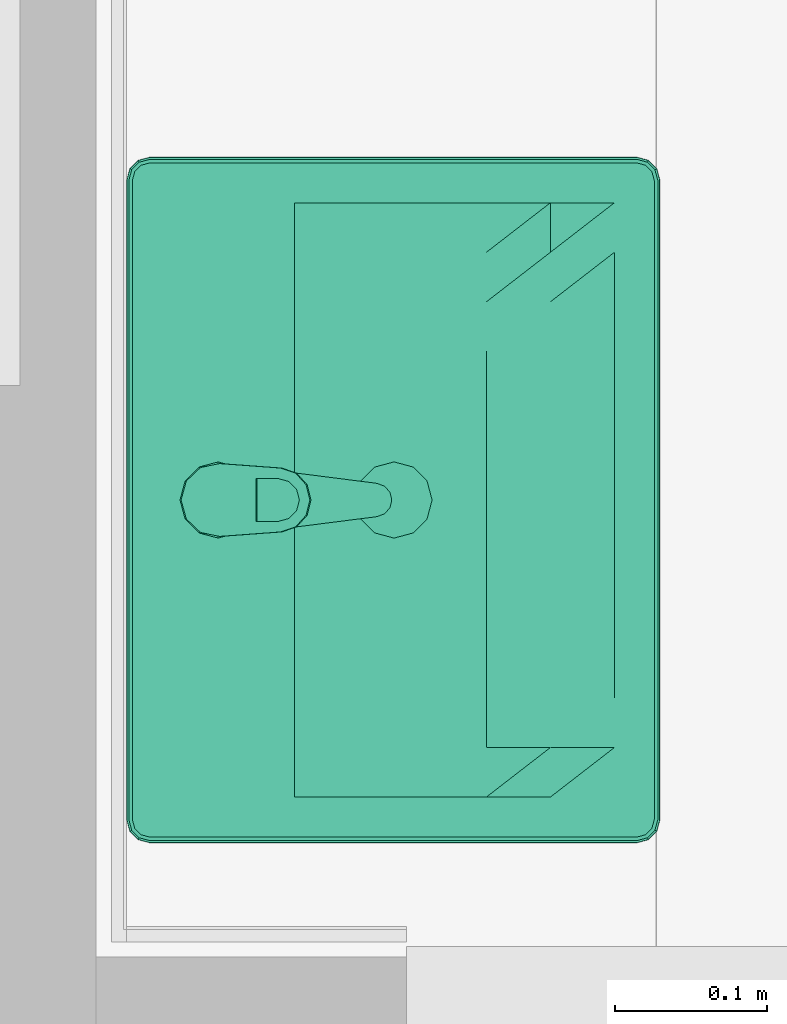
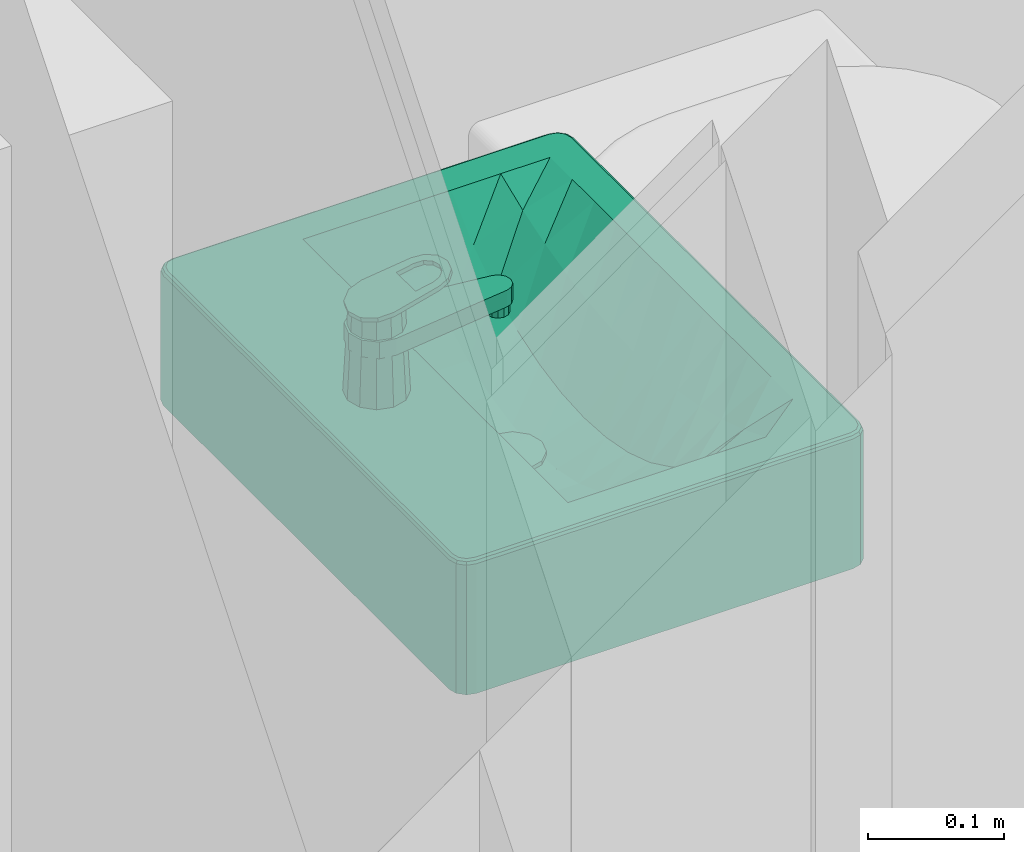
# One storey, part 229 of 347: 1 flow terminal.
"""IFC2X3 building model written with IfcOpenShell, lengths in millimetres."""

from ifc_helpers import new_model, entity, si_unit, converted_unit, derived_unit, money_unit, direction, frame, origin_with_axes, place, context, subcontext, project, spatial, open_shell, faceted_brep, surface_model, source, transform, mapped, type_object, type_shapes, element, save


model = new_model("IFC2X3")

# Units and contexts
model_context = context("Model", 3, precision=0.01, world=origin_with_axes(), true_north=direction((0.0, 1.0)))
plan_context = context("Plan", 3, precision=0.01, world=origin_with_axes(), true_north=direction((0.0, 1.0)))
body_context = subcontext(model_context, "Body", "Model", "MODEL_VIEW")
ifc_project = project(units=[si_unit("LENGTHUNIT", "METRE", prefix="MILLI"), si_unit("AREAUNIT", "SQUARE_METRE"), si_unit("VOLUMEUNIT", "CUBIC_METRE"), converted_unit("PLANEANGLEUNIT", "DEGREE", entity("IfcPlaneAngleMeasure", 0.0174532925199), si_unit("PLANEANGLEUNIT", "RADIAN"), dimensions=[0, 0, 0, 0, 0, 0, 0]), money_unit("EUR"), converted_unit("TIMEUNIT", "Year", entity("IfcTimeMeasure", 31556926.0), si_unit("TIMEUNIT", "SECOND"), dimensions=[0, 0, 1, 0, 0, 0, 0]), si_unit("MASSUNIT", "GRAM", prefix="KILO"), si_unit("THERMODYNAMICTEMPERATUREUNIT", "DEGREE_CELSIUS"), si_unit("LUMINOUSINTENSITYUNIT", "LUMEN"), si_unit("ENERGYUNIT", "JOULE", prefix="MEGA"), derived_unit("THERMALCONDUCTANCEUNIT", [(si_unit("POWERUNIT", "WATT"), 1), (si_unit("LENGTHUNIT", "METRE"), -1), (si_unit("THERMODYNAMICTEMPERATUREUNIT", "KELVIN"), -1)]), derived_unit("SPECIFICHEATCAPACITYUNIT", [(si_unit("ENERGYUNIT", "JOULE"), 1), (si_unit("MASSUNIT", "GRAM", prefix="KILO"), -1), (si_unit("THERMODYNAMICTEMPERATUREUNIT", "KELVIN"), -1)]), derived_unit("MASSDENSITYUNIT", [(si_unit("MASSUNIT", "GRAM", prefix="KILO"), 1), (si_unit("VOLUMEUNIT", "CUBIC_METRE"), -1)])], contexts=[model_context, plan_context])

# Site, building, storey
site_placement = place(None, origin_with_axes())
site = spatial("IfcSite", under=ifc_project, at=site_placement, Name="Site", CompositionType="ELEMENT")
building_placement = place(site_placement, origin_with_axes())
building = spatial("IfcBuilding", under=site, at=building_placement, Name="Naam gebouw", CompositionType="ELEMENT")
storey_placement = place(building_placement, origin_with_axes())
storey = spatial("IfcBuildingStorey", under=building, at=storey_placement, Name="begane grond", CompositionType="ELEMENT", Elevation=0.0)

# Flow terminal
sanitary_terminal_type = type_object("IfcSanitaryTerminalType", Name="Wasbak 25", PredefinedType="SANITARYFOUNTAIN")
shared_shape = source(origin_with_axes(), body_context, "Body", "SurfaceModel", [
    faceted_brep([(-210.0, -350.0, 780.0), (-217.5, -347.990381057, 780.0), (-222.990381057, -342.5, 780.0), (-225.0, -335.0, 780.0), (-225.0, -15.0, 780.0), (-222.990381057, -7.5, 780.0), (-217.5, -2.00961894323, 780.0), (-210.0, 0.0, 780.0), (210.0, 0.0, 780.0), (217.5, -2.00961894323, 780.0), (222.990381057, -7.5, 780.0), (225.0, -15.0, 780.0), (225.0, -335.0, 780.0), (222.990381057, -342.5, 780.0), (217.5, -347.990381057, 780.0), (210.0, -350.0, 780.0), (195.0, -320.0, 780.0), (195.0, -110.0, 780.0), (-195.0, -110.0, 780.0), (-195.0, -320.0, 780.0), (-210.000000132, -350.00000039, 895.0), (-217.50000043, -347.990381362, 895.0), (-222.990380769, -342.500000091, 895.0), (-224.999999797, -334.999999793, 895.0), (-224.999999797, -15.0000004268, 895.0), (-222.990380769, -7.50000012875, 895.0), (-217.50000043, -2.0096188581, 895.0), (-210.000000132, 1.69277203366e-07, 895.0), (209.999999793, 1.69277203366e-07, 895.0), (217.500000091, -2.0096188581, 895.0), (222.990381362, -7.50000012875, 895.0), (225.00000039, -15.0000004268, 895.0), (225.00000039, -334.999999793, 895.0), (222.990381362, -342.500000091, 895.0), (217.500000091, -347.990381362, 895.0), (209.999999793, -350.00000039, 895.0), (195.0, -110.0, 899.999999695), (195.0, -320.0, 899.999999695), (-195.0, -110.0, 899.999999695), (-195.0, -320.0, 899.999999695), (-209.977570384, -349.829629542, 896.294095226), (-217.411809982, -347.837631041, 896.294095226), (-222.837630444, -342.411809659, 896.294095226), (-224.829628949, -334.977570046, 896.294095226), (-224.829628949, -15.0224301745, 896.294095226), (-222.837630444, -7.58819056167, 896.294095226), (-217.411809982, -2.16236917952, 896.294095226), (-209.977570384, -0.170370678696, 896.294095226), (209.977570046, -0.170370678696, 896.294095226), (217.411809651, -2.16236918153, 896.294095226), (222.837631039, -7.58819056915, 896.294095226), (224.829629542, -15.0224301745, 896.294095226), (224.829629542, -334.977570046, 896.294095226), (222.837631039, -342.411809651, 896.294095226), (217.411809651, -347.837631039, 896.294095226), (209.977570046, -349.829629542, 896.294095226), (209.34173768, -4.99999697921, 899.999999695), (-209.341738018, -4.99999697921, 899.999999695), (-214.911811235, -6.49249360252, 899.999999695), (-218.507505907, -10.0881888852, 899.999999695), (-220.000002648, -15.6582625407, 899.999999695), (-220.000002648, -334.34173768, 899.999999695), (-218.507505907, -339.911811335, 899.999999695), (-214.911811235, -343.507506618, 899.999999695), (-209.341738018, -345.000003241, 899.999999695), (209.34173768, -345.000003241, 899.999999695), (214.911811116, -343.507506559, 899.999999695), (218.507506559, -339.911811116, 899.999999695), (220.000003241, -334.34173768, 899.999999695), (220.000003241, -15.6582625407, 899.999999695), (218.507506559, -10.0881891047, 899.999999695), (214.911811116, -6.49249366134, 899.999999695), (-209.807199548, -348.535534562, 898.535533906), (-216.741937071, -346.677377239, 898.535533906), (-221.677376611, -341.741936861, 898.535533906), (-223.535533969, -334.807199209, 898.535533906), (-223.535533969, -15.192801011, 898.535533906), (-221.677376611, -8.25806335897, 898.535533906), (-216.741937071, -3.32262298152, 898.535533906), (-209.807199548, -1.46446565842, 898.535533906), (209.807199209, -1.46446565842, 898.535533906), (216.741936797, -3.32262299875, 898.535533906), (221.677377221, -8.25806342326, 898.535533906), (223.535534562, -15.192801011, 898.535533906), (223.535534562, -334.807199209, 898.535533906), (221.677377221, -341.741936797, 898.535533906), (216.741936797, -346.677377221, 898.535533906), (209.807199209, -348.535534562, 898.535533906), (209.512108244, -3.70590406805, 899.829629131), (-209.512108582, -3.70590406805, 899.829629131), (-215.581683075, -5.33224165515, 899.829629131), (-219.667757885, -9.41831715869, 899.829629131), (-221.294095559, -15.4878919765, 899.829629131), (-221.294095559, -334.512108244, 899.829629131), (-219.667757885, -340.581683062, 899.829629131), (-215.581683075, -344.667758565, 899.829629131), (-209.512108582, -346.294096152, 899.829629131), (209.512108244, -346.294096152, 899.829629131), (215.581682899, -344.667758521, 899.829629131), (219.667758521, -340.581682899, 899.829629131), (221.294096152, -334.512108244, 899.829629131), (221.294096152, -15.4878919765, 899.829629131), (219.667758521, -9.41831732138, 899.829629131), (215.581682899, -5.33224169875, 899.829629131)], [[[0, 1, 2, 3, 4, 5, 6, 7, 8, 9, 10, 11, 12, 13, 14, 15], [16, 17, 18, 19]], [[1, 0, 20, 21]], [[2, 1, 21, 22]], [[3, 2, 22, 23]], [[4, 3, 23, 24]], [[5, 4, 24, 25]], [[6, 5, 25, 26]], [[7, 6, 26, 27]], [[8, 7, 27, 28]], [[9, 8, 28, 29]], [[10, 9, 29, 30]], [[11, 10, 30, 31]], [[12, 11, 31, 32]], [[13, 12, 32, 33]], [[14, 13, 33, 34]], [[15, 14, 34, 35]], [[0, 15, 35, 20]], [[36, 17, 16, 37]], [[38, 18, 17, 36]], [[39, 19, 18, 38]], [[37, 16, 19, 39]], [[21, 20, 40, 41]], [[22, 21, 41, 42]], [[23, 22, 42, 43]], [[24, 23, 43, 44]], [[25, 24, 44, 45]], [[26, 25, 45, 46]], [[27, 26, 46, 47]], [[28, 27, 47, 48]], [[29, 28, 48, 49]], [[30, 29, 49, 50]], [[31, 30, 50, 51]], [[32, 31, 51, 52]], [[33, 32, 52, 53]], [[34, 33, 53, 54]], [[35, 34, 54, 55]], [[20, 35, 55, 40]], [[56, 57, 58, 59, 60, 61, 62, 63, 64, 65, 66, 67, 68, 69, 70, 71], [37, 39, 38, 36]], [[41, 40, 72, 73]], [[42, 41, 73, 74]], [[43, 42, 74, 75]], [[44, 43, 75, 76]], [[45, 44, 76, 77]], [[46, 45, 77, 78]], [[47, 46, 78, 79]], [[48, 47, 79, 80]], [[49, 48, 80, 81]], [[50, 49, 81, 82]], [[51, 50, 82, 83]], [[52, 51, 83, 84]], [[53, 52, 84, 85]], [[54, 53, 85, 86]], [[55, 54, 86, 87]], [[40, 55, 87, 72]], [[88, 89, 57, 56]], [[89, 90, 58, 57]], [[90, 91, 59, 58]], [[91, 92, 60, 59]], [[92, 93, 61, 60]], [[93, 94, 62, 61]], [[94, 95, 63, 62]], [[95, 96, 64, 63]], [[96, 97, 65, 64]], [[97, 98, 66, 65]], [[98, 99, 67, 66]], [[99, 100, 68, 67]], [[100, 101, 69, 68]], [[101, 102, 70, 69]], [[102, 103, 71, 70]], [[103, 88, 56, 71]], [[73, 72, 96, 95]], [[74, 73, 95, 94]], [[75, 74, 94, 93]], [[76, 75, 93, 92]], [[77, 76, 92, 91]], [[78, 77, 91, 90]], [[79, 78, 90, 89]], [[80, 79, 89, 88]], [[81, 80, 88, 103]], [[82, 81, 103, 102]], [[83, 82, 102, 101]], [[84, 83, 101, 100]], [[85, 84, 100, 99]], [[86, 85, 99, 98]], [[87, 86, 98, 97]], [[72, 87, 97, 96]]]),
    faceted_brep([(195.0, -320.0, 780.0), (-195.0, -320.0, 780.0), (-195.0, -110.0, 780.0), (195.0, -110.0, 780.0), (-12.5, -197.098635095, 780.0), (0.0, -200.448, 780.0), (12.5, -197.098635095, 780.0), (21.6506350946, -187.948, 780.0), (25.0, -175.448, 780.0), (21.6506350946, -162.948, 780.0), (12.5, -153.797364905, 780.0), (0.0, -150.448, 780.0), (-12.5, -153.797364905, 780.0), (-21.6506350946, -162.948, 780.0), (-25.0, -175.448, 780.0), (-21.6506350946, -187.948, 780.0), (97.5, -320.0, 900.0), (65.0, -320.0, 900.0), (32.5, -320.0, 900.0), (0.0, -320.0, 900.0), (-32.5, -320.0, 900.0), (-65.0, -320.0, 900.0), (-97.5, -320.0, 900.0), (-130.0, -320.0, 900.0), (-162.5, -320.0, 900.0), (-195.0, -320.0, 900.0), (195.0, -320.0, 900.0), (162.5, -320.0, 900.0), (130.0, -320.0, 900.0), (-195.0, -194.0, 900.0), (-195.0, -152.0, 900.0), (-195.0, -110.0, 900.0), (-195.0, -278.0, 900.0), (-195.0, -236.0, 900.0), (-97.5, -110.0, 820.685337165), (-65.0, -110.0, 808.964848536), (-32.5, -110.0, 802.209541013), (0.0, -110.0, 800.0), (32.5, -110.0, 802.209541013), (65.0, -110.0, 808.964848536), (97.5, -110.0, 820.685337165), (130.0, -110.0, 838.233901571), (162.5, -110.0, 863.337654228), (195.0, -110.0, 900.0), (-162.5, -110.0, 863.337654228), (-130.0, -110.0, 838.233901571), (195.0, -236.0, 900.0), (195.0, -278.0, 900.0), (195.0, -152.0, 900.0), (195.0, -194.0, 900.0), (0.0, -200.448, 802.15392218), (-12.5, -197.098635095, 801.884907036), (4.13265281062, -199.340659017, 802.03923497), (12.5, -197.098635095, 801.869968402), (15.5986350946, -194.0, 801.060486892), (21.6506350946, -187.948, 801.471937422), (25.0, -175.448, 801.699646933), (21.6506350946, -162.948, 801.471937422), (12.5, -153.797364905, 800.849823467), (0.0, -150.448, 800.0), (5.79214285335, -152.0, 800.393783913), (-12.5, -153.797364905, 800.849823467), (-5.79214285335, -152.0, 800.393783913), (-21.6506350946, -162.948, 801.471937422), (-25.0, -175.448, 801.699646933), (-21.6506350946, -187.948, 801.471937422), (-15.5986350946, -194.0, 801.060486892), (65.0, -278.0, 863.048407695), (32.5, -278.0, 859.730275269), (0.0, -278.0, 858.629325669), (-32.5, -278.0, 859.730275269), (-65.0, -278.0, 863.048407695), (-97.5, -278.0, 868.630654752), (-130.0, -278.0, 876.559022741), (-162.5, -278.0, 886.956973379), (162.5, -278.0, 886.956973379), (130.0, -278.0, 876.559022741), (97.5, -278.0, 868.630654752), (-162.5, -194.0, 863.337654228), (-162.5, -152.0, 863.337654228), (-162.5, -236.0, 869.931060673), (-97.5, -152.0, 820.685337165), (-65.0, -152.0, 808.964848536), (-32.5, -152.0, 802.209541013), (32.5, -152.0, 802.209541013), (65.0, -152.0, 808.964848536), (97.5, -152.0, 820.685337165), (130.0, -152.0, 838.233901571), (162.5, -152.0, 863.337654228), (-130.0, -152.0, 838.233901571), (162.5, -236.0, 869.931060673), (162.5, -194.0, 863.337654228), (-32.5, -194.0, 802.209541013), (0.0, -236.0, 814.029890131), (32.5, -236.0, 816.036947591), (32.5, -194.0, 802.209541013), (-130.0, -194.0, 838.233901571), (-97.5, -194.0, 820.685337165), (-65.0, -194.0, 808.964848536), (65.0, -194.0, 808.964848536), (97.5, -194.0, 820.685337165), (130.0, -194.0, 838.233901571), (-32.5, -236.0, 816.036947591), (65.0, -236.0, 822.152509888), (-65.0, -236.0, 822.152509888), (-97.5, -236.0, 832.683441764), (-130.0, -236.0, 848.235620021), (130.0, -236.0, 848.235620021), (97.5, -236.0, 832.683441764)], [[[0, 1, 2, 3], [4, 5, 6, 7, 8, 9, 10, 11, 12, 13, 14, 15]], [[16, 17, 18, 19, 20, 21, 22, 23, 24, 25, 1, 0, 26, 27, 28]], [[29, 30, 31, 2, 1, 25, 32, 33]], [[34, 35, 36, 37, 38, 39, 40, 41, 42, 43, 3, 2, 31, 44, 45]], [[46, 47, 26, 0, 3, 43, 48, 49]], [[50, 5, 4, 51]], [[52, 53, 6, 5, 50]], [[54, 55, 7, 6, 53]], [[56, 8, 7, 55]], [[57, 9, 8, 56]], [[58, 10, 9, 57]], [[59, 11, 10, 58, 60]], [[61, 12, 11, 59, 62]], [[63, 13, 12, 61]], [[64, 14, 13, 63]], [[65, 15, 14, 64]], [[66, 51, 4, 15, 65]], [[16, 67, 17]], [[17, 68, 18]], [[18, 69, 19]], [[19, 70, 20]], [[20, 71, 21]], [[21, 72, 22]], [[22, 73, 23]], [[23, 74, 24]], [[24, 32, 25]], [[26, 75, 27]], [[27, 76, 28]], [[28, 77, 16]], [[29, 78, 79, 30]], [[30, 79, 44, 31]], [[74, 33, 32]], [[80, 29, 33]], [[81, 82, 35, 34]], [[82, 83, 36, 35]], [[59, 37, 36, 83, 62]], [[60, 84, 38, 37, 59]], [[84, 85, 39, 38]], [[85, 86, 40, 39]], [[86, 87, 41, 40]], [[87, 88, 42, 41]], [[88, 48, 43, 42]], [[79, 89, 45, 44]], [[89, 81, 34, 45]], [[47, 46, 90]], [[26, 47, 75]], [[91, 49, 48, 88]], [[46, 49, 91]], [[51, 66, 92, 93, 50]], [[53, 52, 94, 95, 54]], [[50, 93, 94, 52]], [[58, 57, 56, 55, 54, 95, 84, 60]], [[61, 62, 83, 92, 66, 65, 64, 63]], [[16, 77, 67]], [[17, 67, 68]], [[18, 68, 69]], [[19, 69, 70]], [[20, 70, 71]], [[21, 71, 72]], [[22, 72, 73]], [[23, 73, 74]], [[24, 74, 32]], [[27, 75, 76]], [[28, 76, 77]], [[80, 78, 29]], [[78, 96, 89, 79]], [[74, 80, 33]], [[97, 98, 82, 81]], [[98, 92, 83, 82]], [[95, 99, 85, 84]], [[99, 100, 86, 85]], [[100, 101, 87, 86]], [[101, 91, 88, 87]], [[96, 97, 81, 89]], [[46, 91, 90]], [[47, 90, 75]], [[93, 92, 102]], [[103, 95, 94]], [[68, 94, 93]], [[77, 103, 67]], [[67, 94, 68]], [[68, 93, 69]], [[69, 102, 70]], [[70, 104, 71]], [[71, 105, 72]], [[72, 106, 73]], [[73, 80, 74]], [[75, 107, 76]], [[76, 108, 77]], [[106, 78, 80]], [[106, 96, 78]], [[104, 98, 97]], [[102, 92, 98]], [[103, 99, 95]], [[108, 100, 99]], [[107, 101, 100]], [[90, 91, 101]], [[105, 97, 96]], [[75, 90, 107]], [[69, 93, 102]], [[67, 103, 94]], [[77, 108, 103]], [[70, 102, 104]], [[71, 104, 105]], [[72, 105, 106]], [[73, 106, 80]], [[76, 107, 108]], [[105, 96, 106]], [[102, 98, 104]], [[104, 97, 105]], [[108, 99, 103]], [[107, 100, 108]], [[90, 101, 107]]]),
    faceted_brep([(-21.6506350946, -187.948, 800.0), (-25.0, -175.448, 800.0), (-21.6506350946, -162.948, 800.0), (-12.5, -153.797364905, 800.0), (0.0, -150.448, 800.0), (12.5, -153.797364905, 800.0), (21.6506350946, -162.948, 800.0), (25.0, -175.448, 800.0), (21.6506350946, -187.948, 800.0), (12.5, -197.098635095, 800.0), (0.0, -200.448, 800.0), (-12.5, -197.098635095, 800.0), (-21.6506350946, -187.948, 805.0), (-25.0, -175.448, 805.0), (-21.6506350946, -162.948, 805.0), (-12.5, -153.797364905, 805.0), (0.0, -150.448, 805.0), (12.5, -153.797364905, 805.0), (21.6506350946, -162.948, 805.0), (25.0, -175.448, 805.0), (21.6506350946, -187.948, 805.0), (12.5, -197.098635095, 805.0), (0.0, -200.448, 805.0), (-12.5, -197.098635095, 805.0)], [[[0, 1, 2, 3, 4, 5, 6, 7, 8, 9, 10, 11]], [[0, 12, 13, 1]], [[1, 13, 14, 2]], [[2, 14, 15, 3]], [[3, 15, 16, 4]], [[4, 16, 17, 5]], [[5, 17, 18, 6]], [[6, 18, 19, 7]], [[7, 19, 20, 8]], [[8, 20, 21, 9]], [[9, 21, 22, 10]], [[10, 22, 23, 11]], [[11, 23, 12, 0]], [[12, 23, 22, 21, 20, 19, 18, 17, 16, 15, 14, 13]]]),
    surface_model("IfcShellBasedSurfaceModel", [(0.0, -175.448, 807.0), (6.31095278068, -164.51710914, 806.49757372), (0.0, -162.826094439, 806.49757372), (10.9308908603, -169.137047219, 806.49757372), (12.5, -153.797364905, 805.0), (0.0, -150.448, 805.0), (-6.31095278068, -164.51710914, 806.49757372), (12.6219055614, -175.448, 806.49757372), (21.6506350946, -162.948, 805.0), (-12.5, -153.797364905, 805.0), (-10.9308908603, -169.137047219, 806.49757372), (10.9308908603, -181.758952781, 806.49757372), (25.0, -175.448, 805.0), (-21.6506350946, -162.948, 805.0), (-12.6219055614, -175.448, 806.49757372), (6.31095278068, -186.37889086, 806.49757372), (21.6506350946, -187.948, 805.0), (-25.0, -175.448, 805.0), (-10.9308908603, -181.758952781, 806.49757372), (0.0, -188.069905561, 806.49757372), (12.5, -197.098635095, 805.0), (-21.6506350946, -187.948, 805.0), (-6.31095278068, -186.37889086, 806.49757372), (0.0, -200.448, 805.0), (-12.5, -197.098635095, 805.0)], [open_shell([[[0, 1, 2]], [[0, 3, 1]], [[1, 4, 5, 2]], [[0, 2, 6]], [[0, 7, 3]], [[3, 8, 4, 1]], [[2, 5, 9, 6]], [[0, 6, 10]], [[0, 11, 7]], [[7, 12, 8, 3]], [[6, 9, 13, 10]], [[0, 10, 14]], [[0, 15, 11]], [[11, 16, 12, 7]], [[10, 13, 17, 14]], [[0, 14, 18]], [[0, 19, 15]], [[15, 20, 16, 11]], [[14, 17, 21, 18]], [[0, 18, 22]], [[0, 22, 19]], [[19, 23, 20, 15]], [[18, 21, 24, 22]], [[22, 24, 23, 19]]])]),
    faceted_brep([(-12.5, -38.3493649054, 900.0), (-10.5873227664, -41.6622190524, 976.507089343), (0.0, -38.7980769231, 975.961538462), (0.0, -35.0, 900.0), (-21.6506350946, -47.5, 900.0), (-18.2735503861, -49.4497607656, 977.990430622), (-21.0, -60.0, 980.0), (-18.1003413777, -70.4502369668, 981.990521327), (-10.4141059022, -78.037760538, 983.435763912), (0.0, -80.8018867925, 983.962264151), (10.4141059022, -78.037760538, 983.435763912), (18.1003413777, -70.4502369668, 981.990521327), (21.0, -60.0, 980.0), (18.2735503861, -49.4497607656, 977.990430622), (10.5873227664, -41.6622190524, 976.507089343), (12.5, -38.3493649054, 900.0), (21.6506350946, -47.5, 900.0), (25.0, -60.0, 900.0), (21.6506350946, -72.5, 900.0), (12.5, -81.6506350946, 900.0), (0.0, -85.0, 900.0), (-12.5, -81.6506350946, 900.0), (-21.6506350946, -72.5, 900.0), (-25.0, -60.0, 900.0)], [[[0, 1, 2, 3]], [[4, 5, 1, 0]], [[1, 5, 6, 7, 8, 9, 10, 11, 12, 13, 14, 2]], [[3, 2, 14, 15]], [[0, 3, 15, 16, 17, 18, 19, 20, 21, 22, 23, 4]], [[23, 6, 5, 4]], [[22, 7, 6, 23]], [[21, 8, 7, 22]], [[20, 9, 8, 21]], [[19, 10, 9, 20]], [[18, 11, 10, 19]], [[17, 12, 11, 18]], [[16, 13, 12, 17]], [[15, 14, 13, 16]]]),
    faceted_brep([(-9.0, -163.0, 935.0), (-9.0, -163.0, 945.0), (-7.79422863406, -158.5, 945.0), (-7.79422863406, -158.5, 935.0), (-7.79422863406, -167.5, 935.0), (-7.79422863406, -167.5, 945.0), (-4.5, -170.794228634, 945.0), (0.0, -172.0, 945.0), (4.5, -170.794228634, 945.0), (7.79422863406, -167.5, 945.0), (9.0, -163.0, 945.0), (7.79422863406, -158.5, 945.0), (4.5, -155.205771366, 945.0), (0.0, -154.0, 945.0), (-4.5, -155.205771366, 945.0), (-4.5, -155.205771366, 935.0), (0.0, -154.0, 935.0), (4.5, -155.205771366, 935.0), (7.79422863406, -158.5, 935.0), (9.0, -163.0, 935.0), (7.79422863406, -167.5, 935.0), (4.5, -170.794228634, 935.0), (0.0, -172.0, 935.0), (-4.5, -170.794228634, 935.0)], [[[0, 1, 2, 3]], [[4, 5, 1, 0]], [[1, 5, 6, 7, 8, 9, 10, 11, 12, 13, 14, 2]], [[3, 2, 14, 15]], [[0, 3, 15, 16, 17, 18, 19, 20, 21, 22, 23, 4]], [[23, 6, 5, 4]], [[22, 7, 6, 23]], [[21, 8, 7, 22]], [[20, 9, 8, 21]], [[19, 10, 9, 20]], [[18, 11, 10, 19]], [[17, 12, 11, 18]], [[16, 13, 12, 17]], [[15, 14, 13, 16]]]),
    faceted_brep([(12.8717176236, -39.7436961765, 960.0), (-1.01998896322e-06, -36.000021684, 960.0), (-12.8717193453, -39.7436972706, 960.0), (-21.7278061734, -49.806796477, 960.0), (-23.8053997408, -63.0499020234, 960.0), (-10.912, -164.3883, 960.0), (-9.02891689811, -169.283134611, 960.0), (-5.09338878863, -172.749692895, 960.0), (-3.62679860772e-05, -173.99996004, 960.0), (5.09332449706, -172.749726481, 960.0), (9.02887546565, -169.283194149, 960.0), (10.911990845, -164.388371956, 960.0), (23.8054, -63.0499, 960.0), (21.727805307, -49.8067946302, 960.0), (-11.0, -40.9474411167, 960.0), (0.0, -38.0, 960.0), (11.0, -40.9474411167, 960.0), (19.0525588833, -49.0, 960.0), (22.0, -60.0, 960.0), (19.0525588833, -71.0, 960.0), (11.0, -79.0525588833, 960.0), (0.0, -82.0, 960.0), (-11.0, -79.0525588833, 960.0), (-19.0525588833, -71.0, 960.0), (-22.0, -60.0, 960.0), (-19.0525588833, -49.0, 960.0), (12.8717176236, -39.7436961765, 945.0), (-1.01998896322e-06, -36.000021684, 945.0), (-12.8717193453, -39.7436972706, 945.0), (-21.7278061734, -49.806796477, 945.0), (-23.8053997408, -63.0499020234, 945.0), (-10.912, -164.3883, 945.0), (-9.02891689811, -169.283134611, 945.0), (-5.09338878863, -172.749692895, 945.0), (-3.62679860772e-05, -173.99996004, 945.0), (5.09332449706, -172.749726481, 945.0), (9.02887546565, -169.283194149, 945.0), (10.911990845, -164.388371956, 945.0), (23.8054, -63.0499, 945.0), (21.727805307, -49.8067946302, 945.0), (0.0, -37.25, 945.0), (-11.375, -40.2979220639, 945.0), (11.375, -40.2979220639, 945.0), (19.7020779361, -48.625, 945.0), (22.75, -60.0, 945.0), (19.7020779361, -71.375, 945.0), (11.375, -79.7020779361, 945.0), (0.0, -82.75, 945.0), (-11.375, -79.7020779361, 945.0), (-19.7020779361, -71.375, 945.0), (-22.75, -60.0, 945.0), (-19.7020779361, -48.625, 945.0)], [[[0, 1, 2, 3, 4, 5, 6, 7, 8, 9, 10, 11, 12, 13], [14, 15, 16, 17, 18, 19, 20, 21, 22, 23, 24, 25]], [[26, 27, 1, 0]], [[27, 28, 2, 1]], [[28, 29, 3, 2]], [[29, 30, 4, 3]], [[30, 31, 5, 4]], [[31, 32, 6, 5]], [[32, 33, 7, 6]], [[33, 34, 8, 7]], [[34, 35, 9, 8]], [[35, 36, 10, 9]], [[36, 37, 11, 10]], [[37, 38, 12, 11]], [[38, 39, 13, 12]], [[39, 26, 0, 13]], [[40, 15, 14, 41]], [[42, 16, 15, 40]], [[16, 42, 43, 17]], [[17, 43, 44, 18]], [[18, 44, 45, 19]], [[19, 45, 46, 20]], [[20, 46, 47, 21]], [[48, 22, 21, 47]], [[49, 23, 22, 48]], [[50, 24, 23, 49]], [[51, 25, 24, 50]], [[41, 14, 25, 51]], [[34, 33, 32, 31, 30, 29, 28, 27, 26, 39, 38, 37, 36, 35], [48, 47, 46, 45, 44, 43, 42, 40, 41, 51, 50, 49]]]),
    faceted_brep([(-23.893, -61.6925693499, 980.322394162), (-23.893, -60.9441209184, 984.251748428), (-21.2964214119, -48.4768327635, 981.877026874), (-21.2964214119, -49.225281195, 977.947672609), (-20.9459364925, -101.836702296, 987.968895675), (-20.9459364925, -101.088253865, 991.898249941), (-17.6631391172, -110.76591808, 993.741614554), (-10.0614352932, -117.71529766, 995.065305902), (0.000442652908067, -120.237163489, 995.545661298), (10.0622123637, -117.714880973, 995.065226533), (17.6636179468, -110.765186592, 993.741475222), (20.946, -101.087386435, 991.898084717), (23.893020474, -60.9438419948, 984.251695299), (21.2962910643, -48.4765841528, 981.87697952), (12.4716815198, -39.1603541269, 980.102459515), (-0.000142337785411, -35.7195870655, 979.447075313), (-12.4719245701, -39.1604997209, 980.102487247), (-14.0, -84.7923542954, 988.794269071), (14.0, -84.7923542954, 988.794269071), (14.0, -99.6079845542, 991.616293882), (12.124355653, -106.484354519, 992.926078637), (7.0, -111.518206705, 993.884907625), (0.0, -113.360724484, 994.235863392), (-7.0, -111.518206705, 993.884907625), (-12.124355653, -106.484354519, 992.926078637), (-14.0, -99.6079845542, 991.616293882), (-12.4719245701, -39.9089481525, 976.173132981), (-0.000142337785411, -36.4680354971, 975.517721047), (12.4716815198, -39.9088025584, 976.173105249), (21.2962910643, -49.2250325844, 977.947625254), (23.893020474, -61.6922904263, 980.322341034), (20.946, -101.835834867, 987.968730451), (17.6636179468, -111.513635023, 989.812120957), (10.0622123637, -118.463329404, 991.135872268), (0.000442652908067, -120.98561192, 991.616307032), (-10.0614352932, -118.463746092, 991.135951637), (-17.6631391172, -111.514366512, 989.812260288), (-14.0, -85.540802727, 984.864914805), (-14.0, -100.356432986, 987.686939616), (-12.124355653, -107.232802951, 988.996724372), (-7.0, -112.266655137, 989.955553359), (0.0, -114.109172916, 990.306509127), (7.0, -112.266655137, 989.955553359), (12.124355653, -107.232802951, 988.996724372), (14.0, -100.356432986, 987.686939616), (14.0, -85.540802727, 984.864914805)], [[[0, 1, 2, 3]], [[4, 5, 1, 0]], [[1, 5, 6, 7, 8, 9, 10, 11, 12, 13, 14, 15, 16, 2], [17, 18, 19, 20, 21, 22, 23, 24, 25]], [[3, 2, 16, 26]], [[0, 3, 26, 27, 28, 29, 30, 31, 32, 33, 34, 35, 36, 4], [37, 38, 39, 40, 41, 42, 43, 44, 45]], [[36, 6, 5, 4]], [[35, 7, 6, 36]], [[34, 8, 7, 35]], [[33, 9, 8, 34]], [[32, 10, 9, 33]], [[31, 11, 10, 32]], [[30, 12, 11, 31]], [[29, 13, 12, 30]], [[28, 14, 13, 29]], [[27, 15, 14, 28]], [[26, 16, 15, 27]], [[45, 18, 17, 37]], [[44, 19, 18, 45]], [[43, 20, 19, 44]], [[42, 21, 20, 43]], [[41, 22, 21, 42]], [[40, 23, 22, 41]], [[39, 24, 23, 40]], [[38, 25, 24, 39]], [[37, 17, 25, 38]]]),
    surface_model("IfcShellBasedSurfaceModel", [(0.0, -196.448, 780.0), (0.0, -196.448, 760.0), (5.43519994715, -195.732442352, 760.0), (5.43519994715, -195.732442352, 780.0), (-5.43519994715, -195.732442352, 780.0), (-5.43519994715, -195.732442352, 760.0), (10.5, -193.634533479, 760.0), (10.5, -193.634533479, 780.0), (-10.5, -193.634533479, 780.0), (-10.5, -193.634533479, 760.0), (14.8492424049, -190.297242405, 760.0), (14.8492424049, -190.297242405, 780.0), (-14.8492424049, -190.297242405, 780.0), (-14.8492424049, -190.297242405, 760.0), (18.1865334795, -185.948, 760.0), (18.1865334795, -185.948, 780.0), (-18.1865334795, -185.948, 780.0), (-18.1865334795, -185.948, 760.0), (20.2844423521, -180.883199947, 760.0), (20.2844423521, -180.883199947, 780.0), (-20.2844423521, -180.883199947, 780.0), (-20.2844423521, -180.883199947, 760.0), (21.0, -175.448, 760.0), (21.0, -175.448, 780.0), (-21.0, -175.448, 780.0), (-21.0, -175.448, 760.0), (20.2844423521, -170.012800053, 760.0), (20.2844423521, -170.012800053, 780.0), (-20.2844423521, -170.012800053, 780.0), (-20.2844423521, -170.012800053, 760.0), (18.1865334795, -164.948, 760.0), (18.1865334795, -164.948, 780.0), (-18.1865334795, -164.948, 780.0), (-18.1865334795, -164.948, 760.0), (14.8492424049, -160.598757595, 760.0), (14.8492424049, -160.598757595, 780.0), (-14.8492424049, -160.598757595, 780.0), (-14.8492424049, -160.598757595, 760.0), (10.5, -157.261466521, 760.0), (10.5, -157.261466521, 780.0), (-10.5, -157.261466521, 780.0), (-10.5, -157.261466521, 760.0), (5.43519994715, -155.163557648, 760.0), (5.43519994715, -155.163557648, 780.0), (-5.43519994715, -155.163557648, 780.0), (-5.43519994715, -155.163557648, 760.0), (0.0, -154.448, 760.0), (0.0, -154.448, 780.0)], [open_shell([[[0, 1, 2, 3]], [[4, 5, 1, 0]], [[3, 2, 6, 7]], [[8, 9, 5, 4]], [[7, 6, 10, 11]], [[12, 13, 9, 8]], [[11, 10, 14, 15]], [[16, 17, 13, 12]], [[15, 14, 18, 19]], [[20, 21, 17, 16]], [[19, 18, 22, 23]], [[24, 25, 21, 20]], [[23, 22, 26, 27]], [[28, 29, 25, 24]], [[27, 26, 30, 31]], [[32, 33, 29, 28]], [[31, 30, 34, 35]], [[36, 37, 33, 32]], [[35, 34, 38, 39]], [[40, 41, 37, 36]], [[39, 38, 42, 43]], [[44, 45, 41, 40]], [[43, 42, 46, 47]], [[47, 46, 45, 44]]])]),
])
type_shapes(sanitary_terminal_type, [shared_shape])
flow_terminal_placement = place(storey_placement, frame((35725.0, 30499.9999277, 0.0), z_axis=(0.0, 0.0, 1.0), x_axis=(0.0, 1.0, 0.0)))
element("IfcFlowTerminal", 1, at=flow_terminal_placement, inside=storey, type_object=sanitary_terminal_type, Name="52_Sanitair wastafel", context=body_context, shape_type="MappedRepresentation", body=[
    mapped(shared_shape, transform((0.0, 0.0, 0.0))),
])

save(model, "model.ifc")
